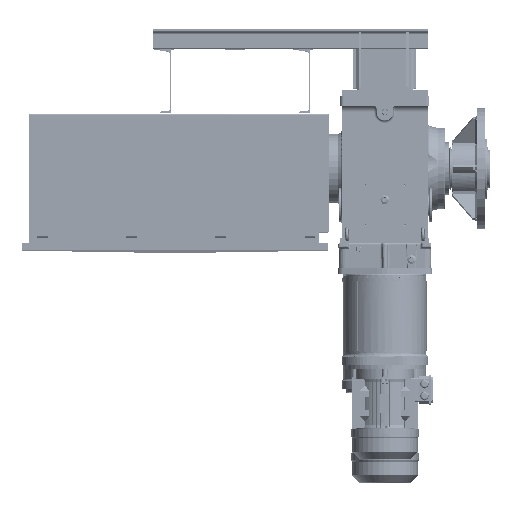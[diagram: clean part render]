
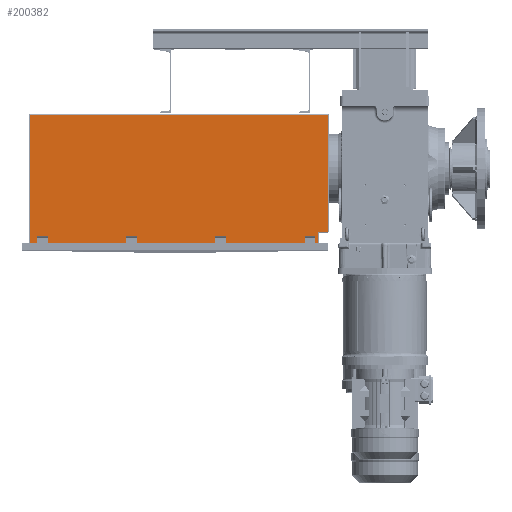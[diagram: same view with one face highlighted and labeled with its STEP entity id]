
A CAD part, top view. The second image highlights one B-rep face of the part: STEP entity #200382.
In plain terms, the highlighted planar face has unit normal (0, 0, 1).
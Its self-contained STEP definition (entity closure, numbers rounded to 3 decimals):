
#18594=FACE_OUTER_BOUND('',#30355,.T.);
#30355=EDGE_LOOP('',(#157322,#157323,#157324,#157325,#157326,#157327,#157328,
#157329,#157330,#157331,#157332,#157333,#157334,#157335,#157336,#157337,
#157338,#157339,#157340,#157341,#157342,#157343));
#44539=LINE('',#342075,#61626);
#44571=LINE('',#342156,#61658);
#44599=LINE('',#342219,#61686);
#44600=LINE('',#342221,#61687);
#44601=LINE('',#342223,#61688);
#44602=LINE('',#342225,#61689);
#44603=LINE('',#342226,#61690);
#44604=LINE('',#342228,#61691);
#44605=LINE('',#342230,#61692);
#44606=LINE('',#342232,#61693);
#44607=LINE('',#342234,#61694);
#44608=LINE('',#342236,#61695);
#44609=LINE('',#342238,#61696);
#44610=LINE('',#342240,#61697);
#44611=LINE('',#342242,#61698);
#44612=LINE('',#342244,#61699);
#44613=LINE('',#342246,#61700);
#44614=LINE('',#342248,#61701);
#44615=LINE('',#342250,#61702);
#44616=LINE('',#342252,#61703);
#44617=LINE('',#342254,#61704);
#44618=LINE('',#342255,#61705);
#61626=VECTOR('',#252325,1138.);
#61658=VECTOR('',#252385,494.048);
#61686=VECTOR('',#252425,32.647);
#61687=VECTOR('',#252426,9.984);
#61688=VECTOR('',#252427,46.032);
#61689=VECTOR('',#252428,40.);
#61690=VECTOR('',#252429,448.016);
#61691=VECTOR('',#252430,28.016);
#61692=VECTOR('',#252431,32.647);
#61693=VECTOR('',#252432,40.);
#61694=VECTOR('',#252433,32.647);
#61695=VECTOR('',#252434,300.);
#61696=VECTOR('',#252435,32.647);
#61697=VECTOR('',#252436,40.);
#61698=VECTOR('',#252437,32.647);
#61699=VECTOR('',#252438,300.);
#61700=VECTOR('',#252439,32.647);
#61701=VECTOR('',#252440,40.);
#61702=VECTOR('',#252441,32.647);
#61703=VECTOR('',#252442,300.);
#61704=VECTOR('',#252443,32.647);
#61705=VECTOR('',#252444,40.);
#87053=VERTEX_POINT('',#342073);
#87054=VERTEX_POINT('',#342074);
#87089=VERTEX_POINT('',#342154);
#87117=VERTEX_POINT('',#342217);
#87118=VERTEX_POINT('',#342218);
#87119=VERTEX_POINT('',#342220);
#87120=VERTEX_POINT('',#342222);
#87121=VERTEX_POINT('',#342224);
#87122=VERTEX_POINT('',#342227);
#87123=VERTEX_POINT('',#342229);
#87124=VERTEX_POINT('',#342231);
#87125=VERTEX_POINT('',#342233);
#87126=VERTEX_POINT('',#342235);
#87127=VERTEX_POINT('',#342237);
#87128=VERTEX_POINT('',#342239);
#87129=VERTEX_POINT('',#342241);
#87130=VERTEX_POINT('',#342243);
#87131=VERTEX_POINT('',#342245);
#87132=VERTEX_POINT('',#342247);
#87133=VERTEX_POINT('',#342249);
#87134=VERTEX_POINT('',#342251);
#87135=VERTEX_POINT('',#342253);
#111540=EDGE_CURVE('',#87053,#87054,#44539,.T.);
#111582=EDGE_CURVE('',#87089,#87053,#44571,.T.);
#111612=EDGE_CURVE('',#87117,#87118,#44599,.T.);
#111613=EDGE_CURVE('',#87118,#87119,#44600,.T.);
#111614=EDGE_CURVE('',#87119,#87120,#44601,.T.);
#111615=EDGE_CURVE('',#87120,#87121,#44602,.T.);
#111616=EDGE_CURVE('',#87054,#87121,#44603,.T.);
#111617=EDGE_CURVE('',#87089,#87122,#44604,.T.);
#111618=EDGE_CURVE('',#87122,#87123,#44605,.T.);
#111619=EDGE_CURVE('',#87123,#87124,#44606,.T.);
#111620=EDGE_CURVE('',#87124,#87125,#44607,.T.);
#111621=EDGE_CURVE('',#87125,#87126,#44608,.T.);
#111622=EDGE_CURVE('',#87126,#87127,#44609,.T.);
#111623=EDGE_CURVE('',#87127,#87128,#44610,.T.);
#111624=EDGE_CURVE('',#87128,#87129,#44611,.T.);
#111625=EDGE_CURVE('',#87129,#87130,#44612,.T.);
#111626=EDGE_CURVE('',#87130,#87131,#44613,.T.);
#111627=EDGE_CURVE('',#87131,#87132,#44614,.T.);
#111628=EDGE_CURVE('',#87132,#87133,#44615,.T.);
#111629=EDGE_CURVE('',#87133,#87134,#44616,.T.);
#111630=EDGE_CURVE('',#87134,#87135,#44617,.T.);
#111631=EDGE_CURVE('',#87135,#87117,#44618,.T.);
#157322=ORIENTED_EDGE('',*,*,#111612,.T.);
#157323=ORIENTED_EDGE('',*,*,#111613,.T.);
#157324=ORIENTED_EDGE('',*,*,#111614,.T.);
#157325=ORIENTED_EDGE('',*,*,#111615,.T.);
#157326=ORIENTED_EDGE('',*,*,#111616,.F.);
#157327=ORIENTED_EDGE('',*,*,#111540,.F.);
#157328=ORIENTED_EDGE('',*,*,#111582,.F.);
#157329=ORIENTED_EDGE('',*,*,#111617,.T.);
#157330=ORIENTED_EDGE('',*,*,#111618,.T.);
#157331=ORIENTED_EDGE('',*,*,#111619,.T.);
#157332=ORIENTED_EDGE('',*,*,#111620,.T.);
#157333=ORIENTED_EDGE('',*,*,#111621,.T.);
#157334=ORIENTED_EDGE('',*,*,#111622,.T.);
#157335=ORIENTED_EDGE('',*,*,#111623,.T.);
#157336=ORIENTED_EDGE('',*,*,#111624,.T.);
#157337=ORIENTED_EDGE('',*,*,#111625,.T.);
#157338=ORIENTED_EDGE('',*,*,#111626,.T.);
#157339=ORIENTED_EDGE('',*,*,#111627,.T.);
#157340=ORIENTED_EDGE('',*,*,#111628,.T.);
#157341=ORIENTED_EDGE('',*,*,#111629,.T.);
#157342=ORIENTED_EDGE('',*,*,#111630,.T.);
#157343=ORIENTED_EDGE('',*,*,#111631,.T.);
#179860=PLANE('',#215280);
#200382=ADVANCED_FACE('',(#18594),#179860,.T.);
#215280=AXIS2_PLACEMENT_3D('',#342216,#252423,#252424);
#252325=DIRECTION('',(1.,0.,0.));
#252385=DIRECTION('',(0.,1.,0.));
#252423=DIRECTION('center_axis',(0.,0.,
1.));
#252424=DIRECTION('ref_axis',(0.,-1.,0.));
#252425=DIRECTION('',(0.,-1.,0.));
#252426=DIRECTION('',(1.,0.,0.));
#252427=DIRECTION('',(0.,1.,0.));
#252428=DIRECTION('',(1.,0.,0.));
#252429=DIRECTION('',(0.,-1.,0.));
#252430=DIRECTION('',(1.,0.,0.));
#252431=DIRECTION('',(0.,1.,0.));
#252432=DIRECTION('',(1.,0.,0.));
#252433=DIRECTION('',(0.,-1.,0.));
#252434=DIRECTION('',(1.,0.,0.));
#252435=DIRECTION('',(0.,1.,0.));
#252436=DIRECTION('',(1.,0.,0.));
#252437=DIRECTION('',(0.,-1.,0.));
#252438=DIRECTION('',(1.,0.,0.));
#252439=DIRECTION('',(0.,1.,0.));
#252440=DIRECTION('',(1.,0.,0.));
#252441=DIRECTION('',(0.,-1.,0.));
#252442=DIRECTION('',(1.,0.,0.));
#252443=DIRECTION('',(0.,1.,0.));
#252444=DIRECTION('',(1.,0.,0.));
#342073=CARTESIAN_POINT('',(-1482.69,-4.739,676.738));
#342074=CARTESIAN_POINT('',(-344.69,-4.739,676.738));
#342075=CARTESIAN_POINT('',(-344.69,-4.739,676.738));
#342154=CARTESIAN_POINT('',(-1482.69,-498.787,676.738));
#342156=CARTESIAN_POINT('',(-1482.69,-502.755,676.738));
#342216=CARTESIAN_POINT('Origin',(-913.69,-252.755,676.738));
#342217=CARTESIAN_POINT('',(-394.673,-466.14,676.738));
#342218=CARTESIAN_POINT('',(-394.673,-498.787,676.738));
#342219=CARTESIAN_POINT('',(-394.673,-365.385,676.738));
#342220=CARTESIAN_POINT('',(-384.69,-498.787,676.738));
#342221=CARTESIAN_POINT('',(-1198.19,-498.787,676.738));
#342222=CARTESIAN_POINT('',(-384.69,-452.755,676.738));
#342223=CARTESIAN_POINT('',(-384.69,-377.755,676.738));
#342224=CARTESIAN_POINT('',(-344.69,-452.755,676.738));
#342225=CARTESIAN_POINT('',(-649.19,-452.755,676.738));
#342226=CARTESIAN_POINT('',(-344.69,-2.755,676.738));
#342227=CARTESIAN_POINT('',(-1454.673,-498.787,676.738));
#342228=CARTESIAN_POINT('',(-1198.19,-498.787,676.738));
#342229=CARTESIAN_POINT('',(-1454.673,-466.14,676.738));
#342230=CARTESIAN_POINT('',(-1454.673,-365.385,676.738));
#342231=CARTESIAN_POINT('',(-1414.673,-466.14,676.738));
#342232=CARTESIAN_POINT('',(-1174.181,-466.14,676.738));
#342233=CARTESIAN_POINT('',(-1414.673,-498.787,676.738));
#342234=CARTESIAN_POINT('',(-1414.673,-365.385,676.738));
#342235=CARTESIAN_POINT('',(-1114.673,-498.787,676.738));
#342236=CARTESIAN_POINT('',(-1198.19,-498.787,676.738));
#342237=CARTESIAN_POINT('',(-1114.673,-466.14,676.738));
#342238=CARTESIAN_POINT('',(-1114.673,-365.385,676.738));
#342239=CARTESIAN_POINT('',(-1074.673,-466.14,676.738));
#342240=CARTESIAN_POINT('',(-1004.181,-466.14,676.738));
#342241=CARTESIAN_POINT('',(-1074.673,-498.787,676.738));
#342242=CARTESIAN_POINT('',(-1074.673,-365.385,676.738));
#342243=CARTESIAN_POINT('',(-774.673,-498.787,676.738));
#342244=CARTESIAN_POINT('',(-1198.19,-498.787,676.738));
#342245=CARTESIAN_POINT('',(-774.673,-466.14,676.738));
#342246=CARTESIAN_POINT('',(-774.673,-365.385,676.738));
#342247=CARTESIAN_POINT('',(-734.673,-466.14,676.738));
#342248=CARTESIAN_POINT('',(-834.181,-466.14,676.738));
#342249=CARTESIAN_POINT('',(-734.673,-498.787,676.738));
#342250=CARTESIAN_POINT('',(-734.673,-365.385,676.738));
#342251=CARTESIAN_POINT('',(-434.673,-498.787,676.738));
#342252=CARTESIAN_POINT('',(-1198.19,-498.787,676.738));
#342253=CARTESIAN_POINT('',(-434.673,-466.14,676.738));
#342254=CARTESIAN_POINT('',(-434.673,-365.385,676.738));
#342255=CARTESIAN_POINT('',(-664.181,-466.14,676.738));
